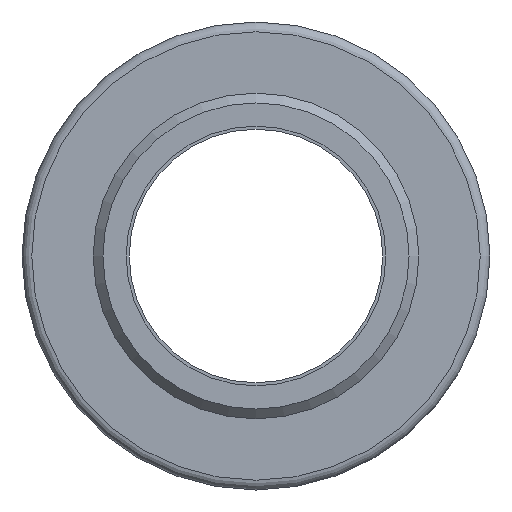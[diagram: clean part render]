
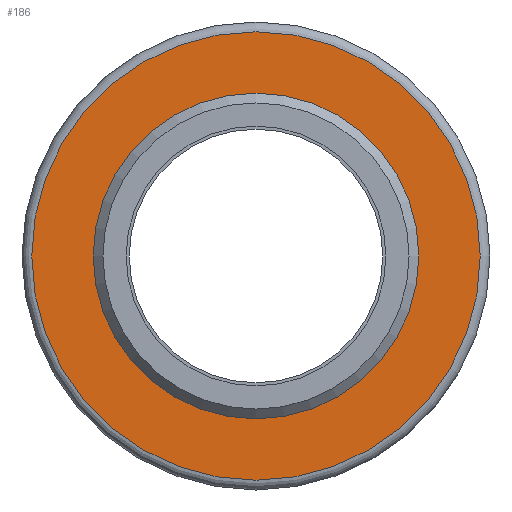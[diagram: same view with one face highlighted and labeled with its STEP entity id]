
A CAD part, front view. The second image highlights one B-rep face of the part: STEP entity #186.
In plain terms, the highlighted planar face has unit normal (0, -1, 0).
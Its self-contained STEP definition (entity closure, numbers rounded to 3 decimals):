
#34=PLANE('',#236);
#55=ORIENTED_EDGE('',*,*,#81,.T.);
#56=ORIENTED_EDGE('',*,*,#80,.F.);
#80=EDGE_CURVE('',#95,#95,#110,.T.);
#81=EDGE_CURVE('',#96,#96,#111,.T.);
#95=VERTEX_POINT('',#342);
#96=VERTEX_POINT('',#345);
#110=CIRCLE('',#235,16.7);
#111=CIRCLE('',#237,23.);
#130=EDGE_LOOP('',(#55));
#131=EDGE_LOOP('',(#56));
#160=FACE_BOUND('',#130,.T.);
#161=FACE_BOUND('',#131,.T.);
#186=ADVANCED_FACE('',(#160,#161),#34,.T.);
#235=AXIS2_PLACEMENT_3D('',#341,#282,#283);
#236=AXIS2_PLACEMENT_3D('',#343,#284,#285);
#237=AXIS2_PLACEMENT_3D('',#344,#286,#287);
#282=DIRECTION('',(0.,-1.,0.));
#283=DIRECTION('',(0.,0.,-1.));
#284=DIRECTION('',(0.,-1.,0.));
#285=DIRECTION('',(0.,0.,-1.));
#286=DIRECTION('',(0.,-1.,0.));
#287=DIRECTION('',(0.,0.,-1.));
#341=CARTESIAN_POINT('',(0.,0.,0.));
#342=CARTESIAN_POINT('',(0.,0.,-16.7));
#343=CARTESIAN_POINT('',(0.,0.,16.7));
#344=CARTESIAN_POINT('',(0.,0.,0.));
#345=CARTESIAN_POINT('',(0.,0.,-23.));
